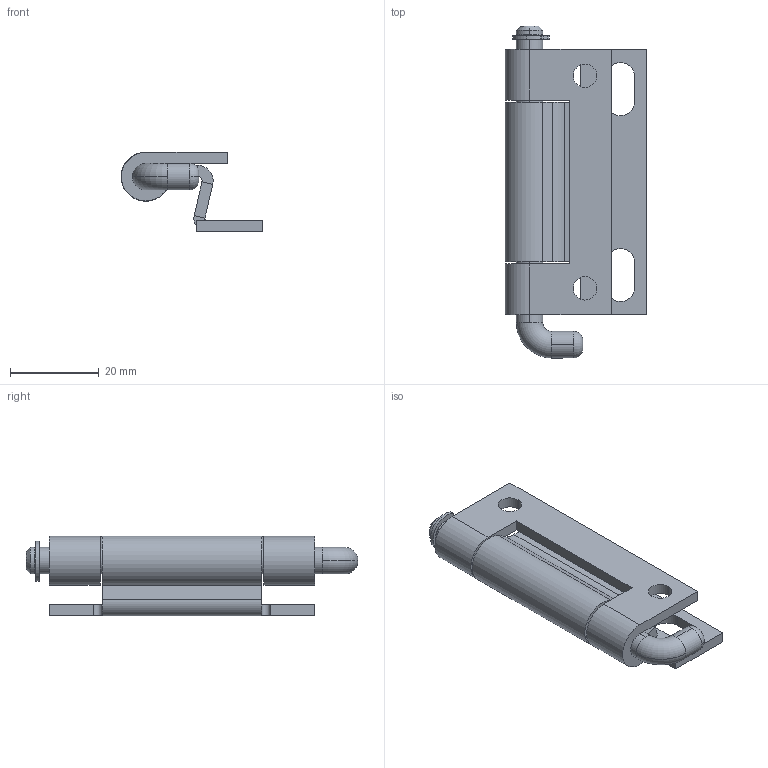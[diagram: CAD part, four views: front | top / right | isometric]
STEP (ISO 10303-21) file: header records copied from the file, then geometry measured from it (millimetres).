
FILE_DESCRIPTION (( 'STEP AP214' ), '1' );
FILE_NAME ('St27-1.001.STEP', '2009-05-18T11:21:02', ( 'abc' ), ( '' ), 'SwSTEP 2.0', 'SolidWorks 2004231', '' );
FILE_SCHEMA (( 'AUTOMOTIVE_DESIGN' ));
Length unit declared in the file: millimetre
Products named in the file (5): St27-1.002.03; St27.001.02_Domyœlna; Zabezpieczenie_Domyœlna; St27-1.001.01_Domyœlna; St27-1.001
Assembly tree (4 placements, depth 2):
  St27-1.001
    St27-1.001.01_Domyœlna
    Zabezpieczenie_Domyœlna
    St27.001.02_Domyœlna
    St27-1.002.03
Bounding box: 32.03 x 75 x 18.01 mm (x, y, z)
Volume: 11339.8 mm3; surface area: 10450.3 mm2
Topology: 4 solids, 4 shells, 122 faces, 306 edges, 194 vertices
Faces by surface type: plane 63, cylinder 35, bspline 18, torus 4, cone 2
Entity records: 3982 total; most frequent: CARTESIAN_POINT 1007, ORIENTED_EDGE 612, DIRECTION 576, EDGE_CURVE 306, AXIS2_PLACEMENT_3D 195, VERTEX_POINT 194, VECTOR 186, LINE 186
